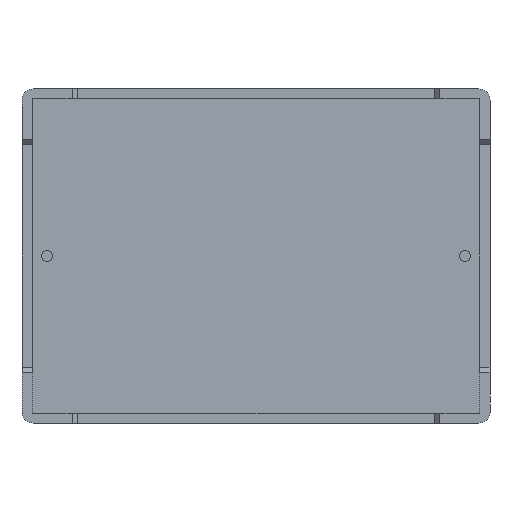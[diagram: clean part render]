
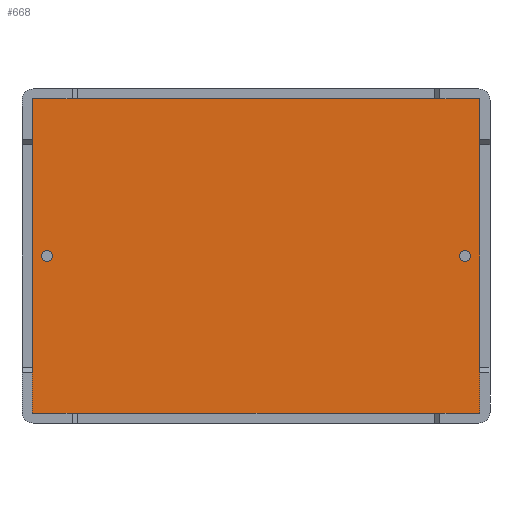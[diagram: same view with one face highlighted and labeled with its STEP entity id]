
A CAD part, front view. The second image highlights one B-rep face of the part: STEP entity #668.
In plain terms, the highlighted planar face has unit normal (0, -1, 0).
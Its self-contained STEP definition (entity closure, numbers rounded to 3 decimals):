
#4 = FACE_BOUND ( 'NONE', #2141, .T. ) ;
#86 = EDGE_CURVE ( 'NONE', #2789, #2736, #1261, .T. ) ;
#132 = EDGE_CURVE ( 'NONE', #2935, #2696, #1094, .T. ) ;
#139 = EDGE_CURVE ( 'NONE', #2850, #3194, #1033, .T. ) ;
#167 = EDGE_CURVE ( 'NONE', #3051, #2831, #965, .T. ) ;
#203 = EDGE_CURVE ( 'NONE', #3219, #2372, #834, .T. ) ;
#206 = FACE_OUTER_BOUND ( 'NONE', #2189, .T. ) ;
#214 = EDGE_CURVE ( 'NONE', #2723, #3056, #645, .T. ) ;
#215 = EDGE_CURVE ( 'NONE', #3194, #2850, #782, .T. ) ;
#221 = EDGE_CURVE ( 'NONE', #2372, #3051, #622, .T. ) ;
#223 = EDGE_CURVE ( 'NONE', #2831, #2935, #612, .T. ) ;
#231 = EDGE_CURVE ( 'NONE', #2696, #2789, #616, .T. ) ;
#240 = EDGE_CURVE ( 'NONE', #2736, #3219, #581, .T. ) ;
#426 = CARTESIAN_POINT ( 'NONE',  ( 20.1, 1., -14.1 ) ) ;
#553 = DIRECTION ( 'NONE',  ( 0., 0., 1. ) ) ;
#581 = CIRCLE ( 'NONE', #3445, 0.1 ) ;
#612 = CIRCLE ( 'NONE', #3078, 0.1 ) ;
#616 = CIRCLE ( 'NONE', #3261, 0.1 ) ;
#622 = CIRCLE ( 'NONE', #2885, 0.1 ) ;
#645 = CIRCLE ( 'NONE', #2454, 0.5 ) ;
#668 = ADVANCED_FACE ( 'NONE', ( #4, #4311, #206 ), #3392, .T. ) ;
#708 = VECTOR ( 'NONE', #2922, 1000. ) ;
#731 = CARTESIAN_POINT ( 'NONE',  ( 20., 1., -14.1 ) ) ;
#782 = CIRCLE ( 'NONE', #2685, 0.5 ) ;
#834 = LINE ( 'NONE', #2934, #708 ) ;
#965 = LINE ( 'NONE', #3233, #997 ) ;
#975 = DIRECTION ( 'NONE',  ( -1., 0., 0. ) ) ;
#997 = VECTOR ( 'NONE', #3092, 1000. ) ;
#1033 = CIRCLE ( 'NONE', #2217, 0.5 ) ;
#1036 = VECTOR ( 'NONE', #553, 1000. ) ;
#1054 = CARTESIAN_POINT ( 'NONE',  ( -20.1, 1., -14. ) ) ;
#1094 = LINE ( 'NONE', #426, #1036 ) ;
#1144 = CARTESIAN_POINT ( 'NONE',  ( -20., 1., 14.1 ) ) ;
#1176 = VECTOR ( 'NONE', #975, 1000. ) ;
#1252 = CARTESIAN_POINT ( 'NONE',  ( -20., 1., -14.1 ) ) ;
#1261 = LINE ( 'NONE', #2079, #1176 ) ;
#1283 = CARTESIAN_POINT ( 'NONE',  ( -20.1, 1., 14. ) ) ;
#1556 = EDGE_CURVE ( 'NONE', #3056, #2723, #3925, .T. ) ;
#1618 = DIRECTION ( 'NONE',  ( 0., -1., 0. ) ) ;
#2072 = AXIS2_PLACEMENT_3D ( 'NONE', #3404, #3145, #3129 ) ;
#2079 = CARTESIAN_POINT ( 'NONE',  ( 20.1, 1., 14.1 ) ) ;
#2132 = EDGE_LOOP ( 'NONE', ( #2584, #2595 ) ) ;
#2141 = EDGE_LOOP ( 'NONE', ( #2565, #2578 ) ) ;
#2189 = EDGE_LOOP ( 'NONE', ( #2613, #2636, #2668, #2703, #2747, #2767, #2783, #2803 ) ) ;
#2217 = AXIS2_PLACEMENT_3D ( 'NONE', #3263, #3258, #3253 ) ;
#2372 = VERTEX_POINT ( 'NONE', #1054 ) ;
#2454 = AXIS2_PLACEMENT_3D ( 'NONE', #2780, #2775, #2771 ) ;
#2492 = DIRECTION ( 'NONE',  ( 0., 0., -1. ) ) ;
#2498 = DIRECTION ( 'NONE',  ( 0., -1., 0. ) ) ;
#2499 = CARTESIAN_POINT ( 'NONE',  ( -20., 1., 14. ) ) ;
#2538 = CARTESIAN_POINT ( 'NONE',  ( 18.75, 1., 0.5 ) ) ;
#2557 = DIRECTION ( 'NONE',  ( 0., 0., -1. ) ) ;
#2562 = DIRECTION ( 'NONE',  ( 0., -1., 0. ) ) ;
#2565 = ORIENTED_EDGE ( 'NONE', *, *, #214, .F. ) ;
#2576 = CARTESIAN_POINT ( 'NONE',  ( 20., 1., 14. ) ) ;
#2578 = ORIENTED_EDGE ( 'NONE', *, *, #1556, .F. ) ;
#2584 = ORIENTED_EDGE ( 'NONE', *, *, #215, .F. ) ;
#2595 = ORIENTED_EDGE ( 'NONE', *, *, #139, .F. ) ;
#2613 = ORIENTED_EDGE ( 'NONE', *, *, #203, .T. ) ;
#2625 = DIRECTION ( 'NONE',  ( 0., 0., -1. ) ) ;
#2632 = DIRECTION ( 'NONE',  ( 0., -1., 0. ) ) ;
#2635 = CARTESIAN_POINT ( 'NONE',  ( 20., 1., -14. ) ) ;
#2636 = ORIENTED_EDGE ( 'NONE', *, *, #221, .T. ) ;
#2668 = ORIENTED_EDGE ( 'NONE', *, *, #167, .T. ) ;
#2671 = DIRECTION ( 'NONE',  ( 0., 0., -1. ) ) ;
#2685 = AXIS2_PLACEMENT_3D ( 'NONE', #2749, #2734, #2710 ) ;
#2686 = DIRECTION ( 'NONE',  ( 0., -1., 0. ) ) ;
#2687 = CARTESIAN_POINT ( 'NONE',  ( -20., 1., -14. ) ) ;
#2696 = VERTEX_POINT ( 'NONE', #3135 ) ;
#2703 = ORIENTED_EDGE ( 'NONE', *, *, #223, .T. ) ;
#2710 = DIRECTION ( 'NONE',  ( 0., 0., -1. ) ) ;
#2723 = VERTEX_POINT ( 'NONE', #2538 ) ;
#2734 = DIRECTION ( 'NONE',  ( 0., -1., 0. ) ) ;
#2736 = VERTEX_POINT ( 'NONE', #1144 ) ;
#2747 = ORIENTED_EDGE ( 'NONE', *, *, #132, .T. ) ;
#2749 = CARTESIAN_POINT ( 'NONE',  ( -18.75, 1., 0. ) ) ;
#2767 = ORIENTED_EDGE ( 'NONE', *, *, #231, .T. ) ;
#2771 = DIRECTION ( 'NONE',  ( 0., 0., -1. ) ) ;
#2775 = DIRECTION ( 'NONE',  ( 0., -1., 0. ) ) ;
#2780 = CARTESIAN_POINT ( 'NONE',  ( 18.75, 1., 0. ) ) ;
#2783 = ORIENTED_EDGE ( 'NONE', *, *, #86, .T. ) ;
#2789 = VERTEX_POINT ( 'NONE', #3425 ) ;
#2803 = ORIENTED_EDGE ( 'NONE', *, *, #240, .T. ) ;
#2831 = VERTEX_POINT ( 'NONE', #731 ) ;
#2850 = VERTEX_POINT ( 'NONE', #2875 ) ;
#2875 = CARTESIAN_POINT ( 'NONE',  ( -18.75, 1., -0.5 ) ) ;
#2885 = AXIS2_PLACEMENT_3D ( 'NONE', #2687, #2686, #2671 ) ;
#2922 = DIRECTION ( 'NONE',  ( 0., 0., -1. ) ) ;
#2934 = CARTESIAN_POINT ( 'NONE',  ( -20.1, 1., 14.1 ) ) ;
#2935 = VERTEX_POINT ( 'NONE', #4010 ) ;
#3051 = VERTEX_POINT ( 'NONE', #1252 ) ;
#3056 = VERTEX_POINT ( 'NONE', #3491 ) ;
#3078 = AXIS2_PLACEMENT_3D ( 'NONE', #2635, #2632, #2625 ) ;
#3092 = DIRECTION ( 'NONE',  ( 1., 0., 0. ) ) ;
#3129 = DIRECTION ( 'NONE',  ( 0., 0., -1. ) ) ;
#3135 = CARTESIAN_POINT ( 'NONE',  ( 20.1, 1., 14. ) ) ;
#3145 = DIRECTION ( 'NONE',  ( 0., -1., 0. ) ) ;
#3194 = VERTEX_POINT ( 'NONE', #3509 ) ;
#3219 = VERTEX_POINT ( 'NONE', #1283 ) ;
#3233 = CARTESIAN_POINT ( 'NONE',  ( -20.1, 1., -14.1 ) ) ;
#3253 = DIRECTION ( 'NONE',  ( 0., 0., -1. ) ) ;
#3258 = DIRECTION ( 'NONE',  ( 0., -1., 0. ) ) ;
#3261 = AXIS2_PLACEMENT_3D ( 'NONE', #2576, #2562, #2557 ) ;
#3263 = CARTESIAN_POINT ( 'NONE',  ( -18.75, 1., 0. ) ) ;
#3392 = PLANE ( 'NONE',  #2072 ) ;
#3404 = CARTESIAN_POINT ( 'NONE',  ( 0., 1., 0. ) ) ;
#3425 = CARTESIAN_POINT ( 'NONE',  ( 20., 1., 14.1 ) ) ;
#3445 = AXIS2_PLACEMENT_3D ( 'NONE', #2499, #2498, #2492 ) ;
#3491 = CARTESIAN_POINT ( 'NONE',  ( 18.75, 1., -0.5 ) ) ;
#3496 = CARTESIAN_POINT ( 'NONE',  ( 18.75, 1., 0. ) ) ;
#3509 = CARTESIAN_POINT ( 'NONE',  ( -18.75, 1., 0.5 ) ) ;
#3783 = DIRECTION ( 'NONE',  ( 0., 0., -1. ) ) ;
#3925 = CIRCLE ( 'NONE', #3991, 0.5 ) ;
#3991 = AXIS2_PLACEMENT_3D ( 'NONE', #3496, #1618, #3783 ) ;
#4010 = CARTESIAN_POINT ( 'NONE',  ( 20.1, 1., -14. ) ) ;
#4311 = FACE_BOUND ( 'NONE', #2132, .T. ) ;
